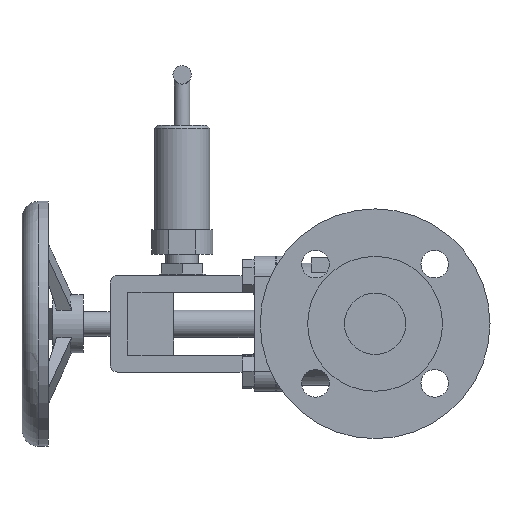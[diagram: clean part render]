
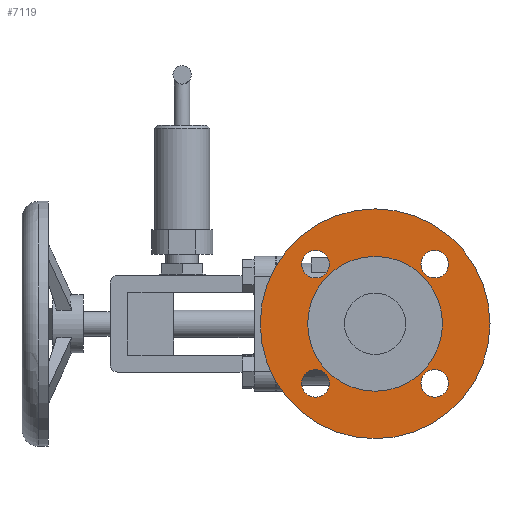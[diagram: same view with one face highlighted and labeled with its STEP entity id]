
A CAD part, left-side view. The second image highlights one B-rep face of the part: STEP entity #7119.
In plain terms, the highlighted planar face has unit normal (-1, 0, 0).
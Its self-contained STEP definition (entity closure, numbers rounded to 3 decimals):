
#278=FACE_BOUND('',#1383,.T.);
#279=FACE_BOUND('',#1384,.T.);
#280=FACE_BOUND('',#1385,.T.);
#281=FACE_BOUND('',#1386,.T.);
#282=FACE_BOUND('',#1387,.T.);
#534=PLANE('',#7610);
#961=FACE_OUTER_BOUND('',#1382,.T.);
#1382=EDGE_LOOP('',(#6316));
#1383=EDGE_LOOP('',(#6317));
#1384=EDGE_LOOP('',(#6318));
#1385=EDGE_LOOP('',(#6319));
#1386=EDGE_LOOP('',(#6320));
#1387=EDGE_LOOP('',(#6321));
#2860=CIRCLE('',#7532,75.);
#2863=CIRCLE('',#7536,9.);
#2865=CIRCLE('',#7539,9.);
#2867=CIRCLE('',#7542,9.);
#2869=CIRCLE('',#7545,9.);
#2870=CIRCLE('',#7547,44.);
#3454=VERTEX_POINT('',#12087);
#3457=VERTEX_POINT('',#12095);
#3459=VERTEX_POINT('',#12101);
#3461=VERTEX_POINT('',#12107);
#3463=VERTEX_POINT('',#12113);
#3464=VERTEX_POINT('',#12117);
#4359=EDGE_CURVE('',#3454,#3454,#2860,.T.);
#4364=EDGE_CURVE('',#3457,#3457,#2863,.T.);
#4367=EDGE_CURVE('',#3459,#3459,#2865,.T.);
#4370=EDGE_CURVE('',#3461,#3461,#2867,.T.);
#4373=EDGE_CURVE('',#3463,#3463,#2869,.T.);
#4374=EDGE_CURVE('',#3464,#3464,#2870,.T.);
#6316=ORIENTED_EDGE('',*,*,#4359,.F.);
#6317=ORIENTED_EDGE('',*,*,#4367,.F.);
#6318=ORIENTED_EDGE('',*,*,#4370,.F.);
#6319=ORIENTED_EDGE('',*,*,#4373,.F.);
#6320=ORIENTED_EDGE('',*,*,#4364,.F.);
#6321=ORIENTED_EDGE('',*,*,#4374,.F.);
#7119=ADVANCED_FACE('',(#961,#278,#279,#280,#281,#282),#534,.F.);
#7532=AXIS2_PLACEMENT_3D('',#12088,#8963,#8964);
#7536=AXIS2_PLACEMENT_3D('',#12097,#8973,#8974);
#7539=AXIS2_PLACEMENT_3D('',#12103,#8980,#8981);
#7542=AXIS2_PLACEMENT_3D('',#12109,#8987,#8988);
#7545=AXIS2_PLACEMENT_3D('',#12115,#8994,#8995);
#7547=AXIS2_PLACEMENT_3D('',#12118,#8998,#8999);
#7610=AXIS2_PLACEMENT_3D('',#12301,#9197,#9198);
#8963=DIRECTION('center_axis',(1.,0.,0.));
#8964=DIRECTION('ref_axis',(0.,0.,-1.));
#8973=DIRECTION('center_axis',(-1.,0.,0.));
#8974=DIRECTION('ref_axis',(0.,0.,-1.));
#8980=DIRECTION('center_axis',(-1.,0.,0.));
#8981=DIRECTION('ref_axis',(0.,0.,-1.));
#8987=DIRECTION('center_axis',(-1.,0.,0.));
#8988=DIRECTION('ref_axis',(0.,0.,-1.));
#8994=DIRECTION('center_axis',(-1.,0.,0.));
#8995=DIRECTION('ref_axis',(0.,0.,-1.));
#8998=DIRECTION('center_axis',(-1.,0.,0.));
#8999=DIRECTION('ref_axis',(0.,1.,0.));
#9197=DIRECTION('center_axis',(1.,0.,0.));
#9198=DIRECTION('ref_axis',(0.,0.,-1.));
#12087=CARTESIAN_POINT('',(-117.978,-50.58,30.75));
#12088=CARTESIAN_POINT('Origin',(-117.978,-50.58,-44.25));
#12095=CARTESIAN_POINT('',(-117.978,-11.689,-74.141));
#12097=CARTESIAN_POINT('Origin',(-117.978,-11.689,-83.141));
#12101=CARTESIAN_POINT('',(-117.978,-89.471,-74.141));
#12103=CARTESIAN_POINT('Origin',(-117.978,-89.471,-83.141));
#12107=CARTESIAN_POINT('',(-117.978,-11.689,3.641));
#12109=CARTESIAN_POINT('Origin',(-117.978,-11.689,-5.359));
#12113=CARTESIAN_POINT('',(-117.978,-89.471,3.641));
#12115=CARTESIAN_POINT('Origin',(-117.978,-89.471,-5.359));
#12117=CARTESIAN_POINT('',(-117.978,-94.58,-44.25));
#12118=CARTESIAN_POINT('Origin',(-117.978,-50.58,-44.25));
#12301=CARTESIAN_POINT('Origin',(-117.978,8.92,-44.25));
